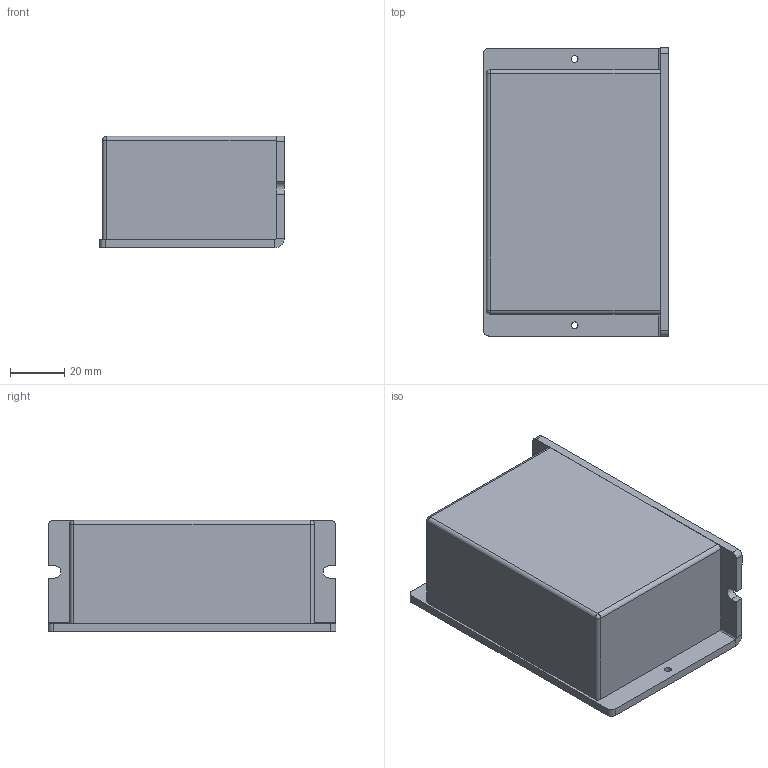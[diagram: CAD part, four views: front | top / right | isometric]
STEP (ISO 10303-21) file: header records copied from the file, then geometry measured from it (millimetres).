
FILE_DESCRIPTION (( 'STEP AP214' ), '1' );
FILE_NAME ('XSC-ECAT-DIO.STEP', '2023-01-31T15:31:26', ( '' ), ( '' ), 'SwSTEP 2.0', 'SolidWorks 2016', '' );
FILE_SCHEMA (( 'AUTOMOTIVE_DESIGN' ));
Length unit declared in the file: millimetre
Products named in the file (1): XSC-ECAT-DIO
Bounding box: 68 x 106 x 41 mm (x, y, z)
Volume: 252195.9 mm3; surface area: 46850.7 mm2
Topology: 2 solids, 2 shells, 61 faces, 141 edges, 88 vertices
Faces by surface type: plane 30, cylinder 29, sphere 2
Entity records: 2441 total; most frequent: DIRECTION 321, CARTESIAN_POINT 289, ORIENTED_EDGE 278, EDGE_CURVE 139, AXIS2_PLACEMENT_3D 120, VERTEX_POINT 88, VECTOR 81, LINE 81
